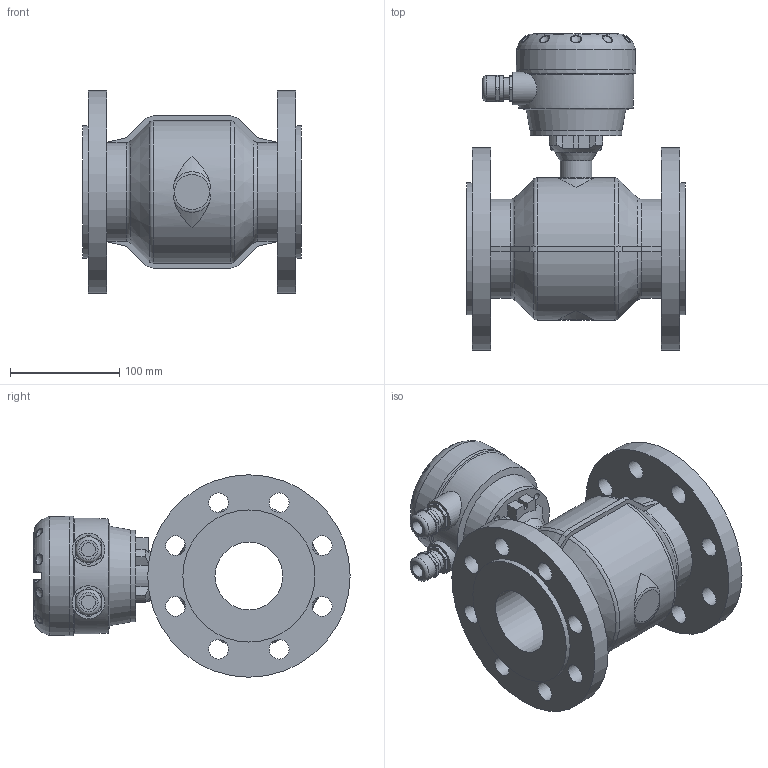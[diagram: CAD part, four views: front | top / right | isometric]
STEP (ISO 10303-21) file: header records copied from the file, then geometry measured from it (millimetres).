
FILE_DESCRIPTION (( 'STEP AP203' ), '1' );
FILE_NAME ('KROHNE_OPTIFLUX_2-4000W_DIN2635_DN65_PN40.STEP', '2011-04-26T11:26:03', ( '' ), ( '' ), 'SwSTEP 2.0', 'SolidWorks 2010', '' );
FILE_SCHEMA (( 'CONFIG_CONTROL_DESIGN' ));
Length unit declared in the file: millimetre
Products named in the file (1): KROHNE_OPTIFLUX_2-4000W_DIN2635_DN65_PN40
Bounding box: 200 x 288.99 x 185 mm (x, y, z)
Volume: 2815579.9 mm3; surface area: 325827.7 mm2
Topology: 14 solids, 14 shells, 385 faces, 964 edges, 628 vertices
Faces by surface type: plane 171, cylinder 104, bspline 53, torus 30, cone 14, sphere 13
Full cylindrical faces by diameter (mm): 4 x4, 6.6 x8, 13 x2, 18 x16, 20 x2, 23.5 x4, 29 x1, 30 x2, 62 x1, 84 x2, 109 x1, 120.7 x2, 185 x2
Entity records: 15724 total; most frequent: CARTESIAN_POINT 7103, ORIENTED_EDGE 1726, DIRECTION 1629, EDGE_CURVE 863, AXIS2_PLACEMENT_3D 603, VERTEX_POINT 601, EDGE_LOOP 540, FACE_OUTER_BOUND 449
